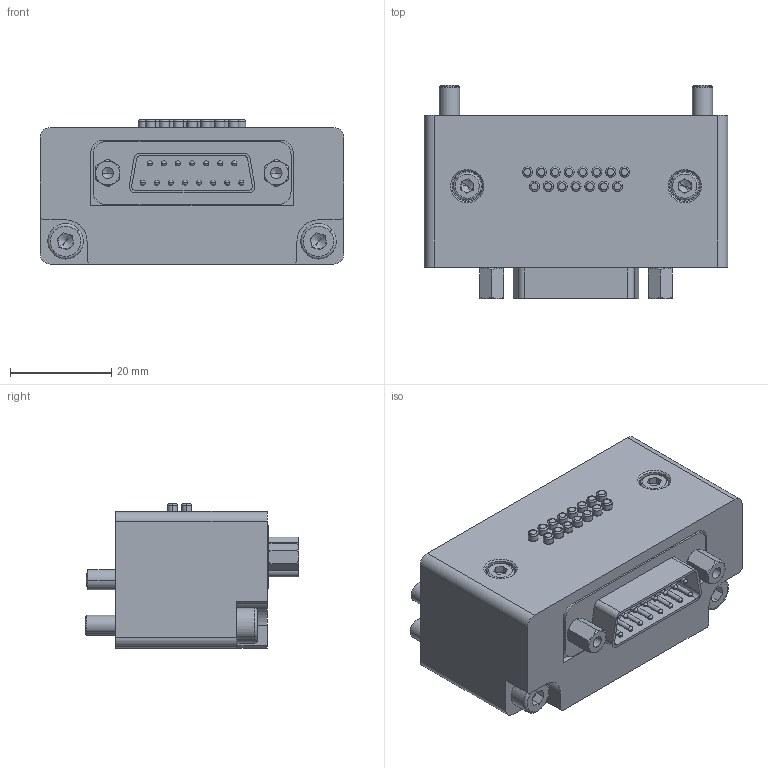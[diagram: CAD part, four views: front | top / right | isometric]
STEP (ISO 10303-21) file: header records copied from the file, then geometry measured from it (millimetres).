
FILE_DESCRIPTION (( 'STEP AP203' ), '1' );
FILE_NAME ('QCSM-15R2.STEP', '2024-03-21T00:43:06', ( '微软用户' ), ( '微软中国' ), 'SwSTEP 2.0', 'SolidWorks 2018', '' );
FILE_SCHEMA (( 'CONFIG_CONTROL_DESIGN' ));
Length unit declared in the file: millimetre
Products named in the file (4): hexagon socket head cap screws gb(GB_FASTENER_SCREWS_HSHCS M3X20-C); hexagon socket head cap screws gb(GB_FASTENER_SCREWS_HSHCS M3X20-C)-1; 电模块机械手侧-探针座; QCSM-15R2
Assembly tree (3 placements, depth 2):
  QCSM-15R2
    hexagon socket head cap screws gb(GB_FASTENER_SCREWS_HSHCS M3X20-C)
    hexagon socket head cap screws gb(GB_FASTENER_SCREWS_HSHCS M3X20-C)-1
    电模块机械手侧-探针座
Bounding box: 60 x 42.24 x 28.5 mm (x, y, z)
Volume: 47718.8 mm3; surface area: 14104.3 mm2
Topology: 3 solids, 20 shells, 444 faces, 1034 edges, 635 vertices
Faces by surface type: plane 170, cylinder 162, torus 42, cone 40, sphere 30
Entity records: 12752 total; most frequent: CARTESIAN_POINT 2317, DIRECTION 2308, ORIENTED_EDGE 1908, EDGE_CURVE 954, AXIS2_PLACEMENT_3D 940, VERTEX_POINT 605, EDGE_LOOP 505, CIRCLE 490
